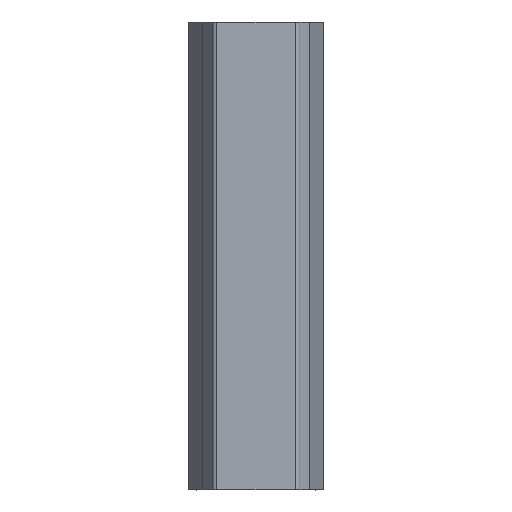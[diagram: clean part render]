
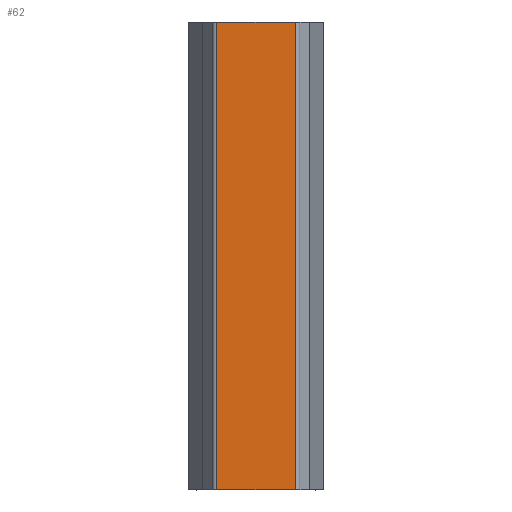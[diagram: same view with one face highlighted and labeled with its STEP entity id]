
A CAD part, top view. The second image highlights one B-rep face of the part: STEP entity #62.
In plain terms, the highlighted planar face has unit normal (0, 0, 1).
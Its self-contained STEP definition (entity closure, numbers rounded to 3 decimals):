
#62=ADVANCED_FACE('',(#125),#126,.F.);
#125=FACE_OUTER_BOUND('',#186,.T.);
#126=PLANE('',#187);
#186=EDGE_LOOP('',(#303,#304,#305,#306));
#187=AXIS2_PLACEMENT_3D('',#307,#308,#309);
#303=ORIENTED_EDGE('',*,*,#424,.T.);
#304=ORIENTED_EDGE('',*,*,#425,.F.);
#305=ORIENTED_EDGE('',*,*,#391,.F.);
#306=ORIENTED_EDGE('',*,*,#422,.T.);
#307=CARTESIAN_POINT('',(-4.2,50.0,0.));
#308=DIRECTION('',(0.0,0.0,-1.0));
#309=DIRECTION('',(0.0,-1.0,0.0));
#391=EDGE_CURVE('',#466,#468,#469,.T.);
#422=EDGE_CURVE('',#466,#512,#514,.T.);
#424=EDGE_CURVE('',#512,#516,#517,.T.);
#425=EDGE_CURVE('',#468,#516,#518,.T.);
#466=VERTEX_POINT('',#573);
#468=VERTEX_POINT('',#575);
#469=LINE('',#576,#577);
#512=VERTEX_POINT('',#638);
#514=LINE('',#640,#641);
#516=VERTEX_POINT('',#643);
#517=LINE('',#644,#645);
#518=LINE('',#646,#647);
#573=CARTESIAN_POINT('',(-4.2,50.0,0.));
#575=CARTESIAN_POINT('',(4.2,50.0,0.));
#576=CARTESIAN_POINT('',(-4.2,50.0,0.));
#577=VECTOR('',#695,1.0);
#638=CARTESIAN_POINT('',(-4.2,0.0,0.));
#640=CARTESIAN_POINT('',(-4.2,50.0,0.));
#641=VECTOR('',#726,1.0);
#643=CARTESIAN_POINT('',(4.2,0.0,0.));
#644=CARTESIAN_POINT('',(-4.2,0.0,0.));
#645=VECTOR('',#727,1.0);
#646=CARTESIAN_POINT('',(4.2,50.0,0.));
#647=VECTOR('',#728,1.0);
#695=DIRECTION('',(1.0,0.0,0.0));
#726=DIRECTION('',(0.0,-1.0,0.0));
#727=DIRECTION('',(1.0,0.0,0.0));
#728=DIRECTION('',(0.0,-1.0,0.0));
